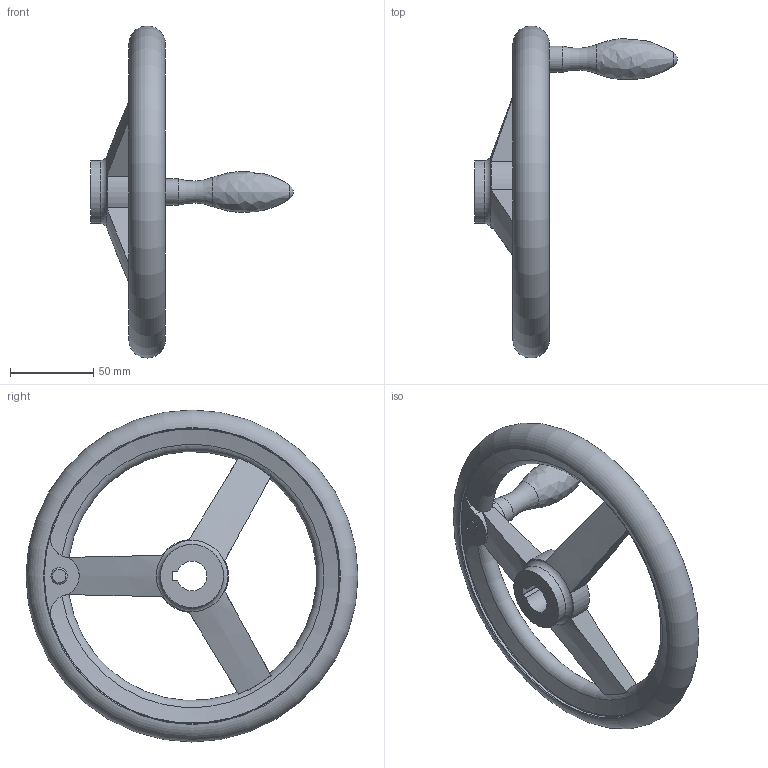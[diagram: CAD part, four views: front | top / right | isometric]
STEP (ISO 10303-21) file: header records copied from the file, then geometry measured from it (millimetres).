
FILE_DESCRIPTION( ( 'STEP AP203' ), '1' );
FILE_NAME( 'C:/Temp/Ganter_Step_05_03_2020/data/1_3/din_950/din_950_k/din_950_k_f/Handwheel DIN 950-GG-200-K18-F.stp', '2020-03-05T10:31:18', ( 'License CC BY-ND 4.0' ), ( 'CADENAS' ), ' ', 'PARTsolutions', ' ' );
FILE_SCHEMA( ( 'CONFIG_CONTROL_DESIGN' ) );
Length unit declared in the file: millimetre
Products named in the file (1): _Handwheel DIN 950-GG-200-K18-F
Bounding box: 122 x 199.99 x 199.99 mm (x, y, z)
Volume: 297431.8 mm3; surface area: 63624.6 mm2
Topology: 1 solids, 1 shells, 54 faces, 154 edges, 99 vertices
Faces by surface type: cylinder 18, torus 15, plane 14, cone 5, sphere 1, bspline 1
Full cylindrical faces by diameter (mm): 10 x1, 15.8 x1, 38 x2, 178 x2
Entity records: 2088 total; most frequent: CARTESIAN_POINT 799, ORIENTED_EDGE 254, DIRECTION 240, EDGE_CURVE 127, AXIS2_PLACEMENT_3D 107, VERTEX_POINT 93, EDGE_LOOP 78, FACE_OUTER_BOUND 69
